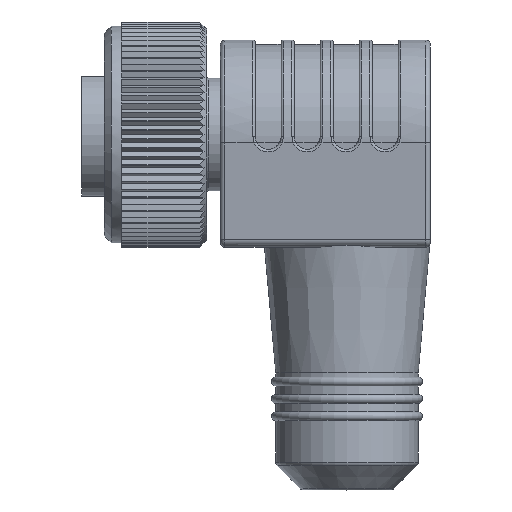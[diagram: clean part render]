
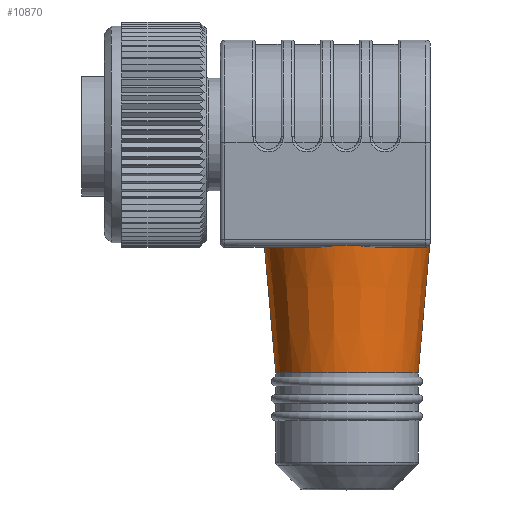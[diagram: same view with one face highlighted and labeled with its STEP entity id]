
A CAD part, top view. The second image highlights one B-rep face of the part: STEP entity #10870.
In plain terms, the highlighted conical face has half-angle 5.131 degrees and reference radius 8.909 mm.
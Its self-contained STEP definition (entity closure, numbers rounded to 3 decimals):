
#10762=CARTESIAN_POINT('',(0.,-19.807,0.));
#10763=DIRECTION('',(0.,1.0,0.));
#10764=DIRECTION('',(-1.0,0.0,0.0));
#10765=AXIS2_PLACEMENT_3D('',#10762,#10763,#10764);
#10766=CONICAL_SURFACE('',#10765,8.909,5.131);
#10767=CARTESIAN_POINT('',(3.412,-13.,-8.888));
#10768=VERTEX_POINT('',#10767);
#10769=CARTESIAN_POINT('',(9.1,-13.,-2.798));
#10770=VERTEX_POINT('',#10769);
#10771=CARTESIAN_POINT('',(0.,-13.,0.));
#10772=DIRECTION('',(0.0,-1.0,0.0));
#10773=DIRECTION('',(-1.0,0.0,0.0));
#10774=AXIS2_PLACEMENT_3D('',#10771,#10772,#10773);
#10775=CIRCLE('',#10774,9.52);
#10776=EDGE_CURVE('',#10768,#10770,#10775,.T.);
#10777=ORIENTED_EDGE('',*,*,#10776,.T.);
#10778=CARTESIAN_POINT('',(9.1,-13.,2.798));
#10779=VERTEX_POINT('',#10778);
#10780=CARTESIAN_POINT('',(9.1,-13.,-2.798));
#10781=CARTESIAN_POINT('',(9.255,-13.,-2.294));
#10782=CARTESIAN_POINT('',(9.38,-12.928,-1.752));
#10783=CARTESIAN_POINT('',(9.456,-12.851,-1.214));
#10784=CARTESIAN_POINT('',(9.504,-12.802,-0.873));
#10785=CARTESIAN_POINT('',(9.534,-12.75,-0.534));
#10786=CARTESIAN_POINT('',(9.542,-12.733,-0.206));
#10787=CARTESIAN_POINT('',(9.548,-12.723,0.));
#10788=CARTESIAN_POINT('',(9.545,-12.729,0.203));
#10789=CARTESIAN_POINT('',(9.534,-12.748,0.411));
#10790=CARTESIAN_POINT('',(9.514,-12.783,0.807));
#10791=CARTESIAN_POINT('',(9.465,-12.854,1.216));
#10792=CARTESIAN_POINT('',(9.39,-12.907,1.621));
#10793=CARTESIAN_POINT('',(9.316,-12.96,2.023));
#10794=CARTESIAN_POINT('',(9.216,-13.,2.421));
#10795=CARTESIAN_POINT('',(9.1,-13.,2.798));
#10796=B_SPLINE_CURVE_WITH_KNOTS('',3,(#10780,#10781,#10782,#10783,#10784,#10785,#10786,#10787,#10788,#10789,#10790,#10791,#10792,#10793,#10794,#10795),.UNSPECIFIED.,.F.,.U.,(4,3,3,3,3,4),(0.598,0.751,0.849,0.909,1.025,1.14),.UNSPECIFIED.);
#10797=EDGE_CURVE('',#10770,#10779,#10796,.T.);
#10798=ORIENTED_EDGE('',*,*,#10797,.T.);
#10799=CARTESIAN_POINT('',(3.412,-13.,8.888));
#10800=VERTEX_POINT('',#10799);
#10801=CARTESIAN_POINT('',(0.,-13.,0.));
#10802=DIRECTION('',(0.0,-1.0,0.0));
#10803=DIRECTION('',(-1.0,0.0,0.0));
#10804=AXIS2_PLACEMENT_3D('',#10801,#10802,#10803);
#10805=CIRCLE('',#10804,9.52);
#10806=EDGE_CURVE('',#10779,#10800,#10805,.T.);
#10807=ORIENTED_EDGE('',*,*,#10806,.T.);
#10808=CARTESIAN_POINT('',(-3.412,-13.,8.888));
#10809=VERTEX_POINT('',#10808);
#10810=CARTESIAN_POINT('',(3.412,-13.,8.888));
#10811=CARTESIAN_POINT('',(2.813,-13.,9.118));
#10812=CARTESIAN_POINT('',(2.174,-12.921,9.299));
#10813=CARTESIAN_POINT('',(1.531,-12.853,9.41));
#10814=CARTESIAN_POINT('',(1.039,-12.801,9.495));
#10815=CARTESIAN_POINT('',(0.546,-12.76,9.538));
#10816=CARTESIAN_POINT('',(0.071,-12.757,9.542));
#10817=CARTESIAN_POINT('',(-0.193,-12.755,9.544));
#10818=CARTESIAN_POINT('',(-0.46,-12.764,9.535));
#10819=CARTESIAN_POINT('',(-0.731,-12.782,9.512));
#10820=CARTESIAN_POINT('',(-1.471,-12.83,9.451));
#10821=CARTESIAN_POINT('',(-2.23,-12.946,9.291));
#10822=CARTESIAN_POINT('',(-2.946,-12.986,9.055));
#10823=CARTESIAN_POINT('',(-3.103,-12.995,9.002));
#10824=CARTESIAN_POINT('',(-3.259,-13.,8.947));
#10825=CARTESIAN_POINT('',(-3.412,-13.,8.888));
#10826=B_SPLINE_CURVE_WITH_KNOTS('',3,(#10810,#10811,#10812,#10813,#10814,#10815,#10816,#10817,#10818,#10819,#10820,#10821,#10822,#10823,#10824,#10825),.UNSPECIFIED.,.F.,.U.,(4,3,3,3,3,4),(-0.334,-0.149,-0.007,0.072,0.287,0.334),.UNSPECIFIED.);
#10827=EDGE_CURVE('',#10800,#10809,#10826,.T.);
#10828=ORIENTED_EDGE('',*,*,#10827,.T.);
#10829=CARTESIAN_POINT('',(-3.412,-13.,-8.888));
#10830=VERTEX_POINT('',#10829);
#10831=CARTESIAN_POINT('',(0.,-13.,0.));
#10832=DIRECTION('',(0.0,-1.0,0.0));
#10833=DIRECTION('',(-1.0,0.0,0.0));
#10834=AXIS2_PLACEMENT_3D('',#10831,#10832,#10833);
#10835=CIRCLE('',#10834,9.52);
#10836=EDGE_CURVE('',#10809,#10830,#10835,.T.);
#10837=ORIENTED_EDGE('',*,*,#10836,.T.);
#10838=CARTESIAN_POINT('',(-3.412,-13.,-8.888));
#10839=CARTESIAN_POINT('',(-2.813,-13.,-9.118));
#10840=CARTESIAN_POINT('',(-2.174,-12.921,-9.299));
#10841=CARTESIAN_POINT('',(-1.531,-12.853,-9.41));
#10842=CARTESIAN_POINT('',(-1.039,-12.801,-9.495));
#10843=CARTESIAN_POINT('',(-0.546,-12.76,-9.538));
#10844=CARTESIAN_POINT('',(-0.071,-12.757,-9.542));
#10845=CARTESIAN_POINT('',(0.193,-12.755,-9.544));
#10846=CARTESIAN_POINT('',(0.46,-12.764,-9.535));
#10847=CARTESIAN_POINT('',(0.731,-12.782,-9.512));
#10848=CARTESIAN_POINT('',(1.471,-12.83,-9.451));
#10849=CARTESIAN_POINT('',(2.23,-12.946,-9.291));
#10850=CARTESIAN_POINT('',(2.946,-12.986,-9.055));
#10851=CARTESIAN_POINT('',(3.103,-12.995,-9.002));
#10852=CARTESIAN_POINT('',(3.259,-13.,-8.947));
#10853=CARTESIAN_POINT('',(3.412,-13.,-8.888));
#10854=B_SPLINE_CURVE_WITH_KNOTS('',3,(#10838,#10839,#10840,#10841,#10842,#10843,#10844,#10845,#10846,#10847,#10848,#10849,#10850,#10851,#10852,#10853),.UNSPECIFIED.,.F.,.U.,(4,3,3,3,3,4),(0.876,1.061,1.203,1.282,1.497,1.545),.UNSPECIFIED.);
#10855=EDGE_CURVE('',#10830,#10768,#10854,.T.);
#10856=ORIENTED_EDGE('',*,*,#10855,.T.);
#10857=EDGE_LOOP('',(#10777,#10798,#10807,#10828,#10837,#10856));
#10858=FACE_OUTER_BOUND('',#10857,.T.);
#10859=CARTESIAN_POINT('',(-8.218,-27.5,0.));
#10860=VERTEX_POINT('',#10859);
#10861=CARTESIAN_POINT('',(0.,-27.5,0.));
#10862=DIRECTION('',(0.0,1.0,0.0));
#10863=DIRECTION('',(-1.0,0.0,0.0));
#10864=AXIS2_PLACEMENT_3D('',#10861,#10862,#10863);
#10865=CIRCLE('',#10864,8.218);
#10866=EDGE_CURVE('',#10860,#10860,#10865,.T.);
#10867=ORIENTED_EDGE('',*,*,#10866,.T.);
#10868=EDGE_LOOP('',(#10867));
#10869=FACE_BOUND('',#10868,.T.);
#10870=ADVANCED_FACE('',(#10858,#10869),#10766,.T.);
